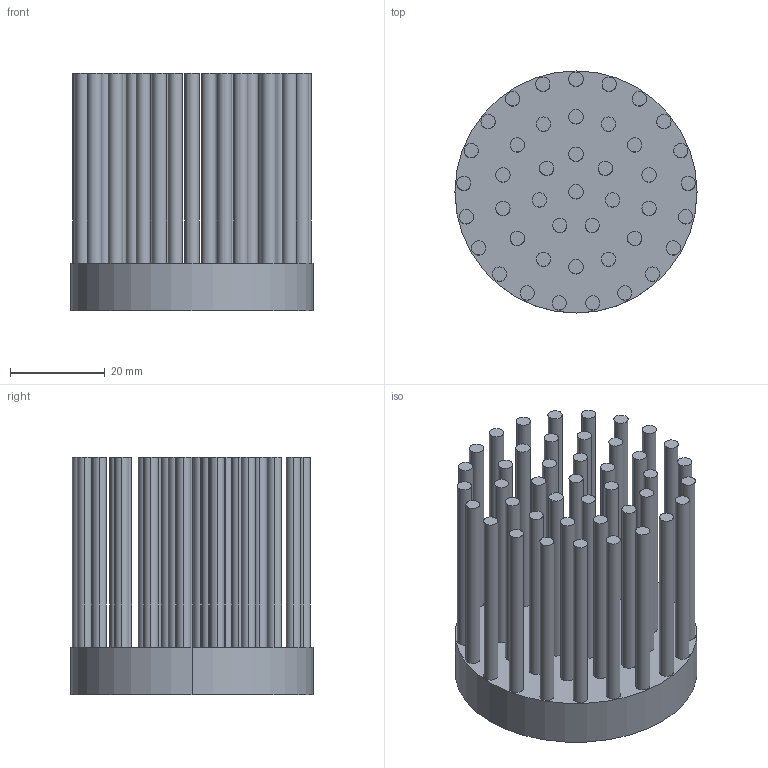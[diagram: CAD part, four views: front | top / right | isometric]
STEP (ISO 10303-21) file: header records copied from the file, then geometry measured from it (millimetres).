
FILE_DESCRIPTION (( 'STEP AP214' ), '1' );
FILE_NAME ('CPL5050-101.STEP', '2014-01-28T19:55:39', ( '' ), ( '' ), 'SwSTEP 2.0', 'SolidWorks 2013', '' );
FILE_SCHEMA (( 'AUTOMOTIVE_DESIGN' ));
Length unit declared in the file: millimetre
Products named in the file (1): CPL5050-101
Bounding box: 51 x 51 x 50 mm (x, y, z)
Volume: 32586.2 mm3; surface area: 21898.5 mm2
Topology: 1 solids, 1 shells, 133 faces, 264 edges, 176 vertices
Faces by surface type: cylinder 88, plane 45
Entity records: 3568 total; most frequent: DIRECTION 708, CARTESIAN_POINT 574, ORIENTED_EDGE 528, AXIS2_PLACEMENT_3D 310, EDGE_CURVE 264, EDGE_LOOP 176, VERTEX_POINT 176, CIRCLE 176
